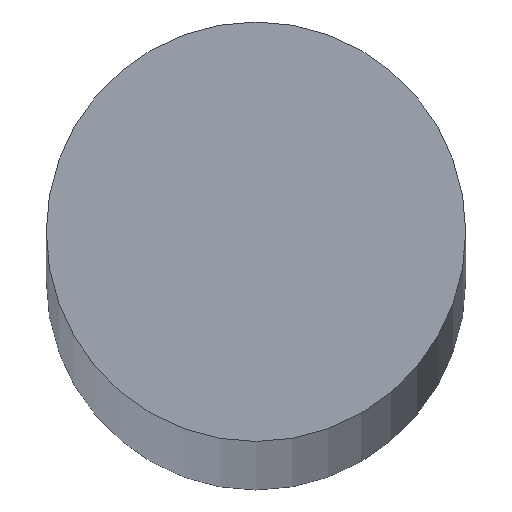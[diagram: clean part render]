
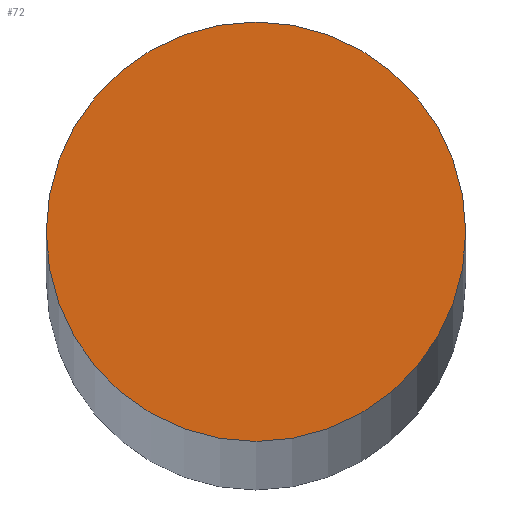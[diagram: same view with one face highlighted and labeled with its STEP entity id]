
A CAD part, top view. The second image highlights one B-rep face of the part: STEP entity #72.
In plain terms, the highlighted planar face has unit normal (0, 0, 1).
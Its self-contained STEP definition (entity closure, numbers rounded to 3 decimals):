
#1 = CARTESIAN_POINT ( 'NONE',  ( 6., 0., 397.5 ) ) ;
#2 = PLANE ( 'NONE',  #129 ) ;
#3 = VERTEX_POINT ( 'NONE', #1 ) ;
#6 = VERTEX_POINT ( 'NONE', #9 ) ;
#9 = CARTESIAN_POINT ( 'NONE',  ( -6., 0., 397.5 ) ) ;
#17 = CARTESIAN_POINT ( 'NONE',  ( 0., 0., 397.5 ) ) ;
#29 = DIRECTION ( 'NONE',  ( 0., 0., 1. ) ) ;
#30 = DIRECTION ( 'NONE',  ( 1., 0., 0. ) ) ;
#36 = CARTESIAN_POINT ( 'NONE',  ( 0., 0., 397.5 ) ) ;
#37 = DIRECTION ( 'NONE',  ( 0., 0., 1. ) ) ;
#38 = DIRECTION ( 'NONE',  ( 1., 0., 0. ) ) ;
#39 = CARTESIAN_POINT ( 'NONE',  ( 0., 0., 397.5 ) ) ;
#40 = DIRECTION ( 'NONE',  ( 0., 0., 1. ) ) ;
#41 = DIRECTION ( 'NONE',  ( 1., 0., 0. ) ) ;
#72 = ADVANCED_FACE ( 'NONE', ( #73 ), #2, .T. ) ;
#73 = FACE_OUTER_BOUND ( 'NONE', #95, .T. ) ;
#85 = ORIENTED_EDGE ( 'NONE', *, *, #125, .T. ) ;
#86 = ORIENTED_EDGE ( 'NONE', *, *, #124, .T. ) ;
#95 = EDGE_LOOP ( 'NONE', ( #86, #85 ) ) ;
#106 = CIRCLE ( 'NONE', #120, 6. ) ;
#108 = CIRCLE ( 'NONE', #126, 6. ) ;
#120 = AXIS2_PLACEMENT_3D ( 'NONE', #36, #37, #38 ) ;
#124 = EDGE_CURVE ( 'NONE', #6, #3, #106, .T. ) ;
#125 = EDGE_CURVE ( 'NONE', #3, #6, #108, .T. ) ;
#126 = AXIS2_PLACEMENT_3D ( 'NONE', #39, #40, #41 ) ;
#129 = AXIS2_PLACEMENT_3D ( 'NONE', #17, #29, #30 ) ;
